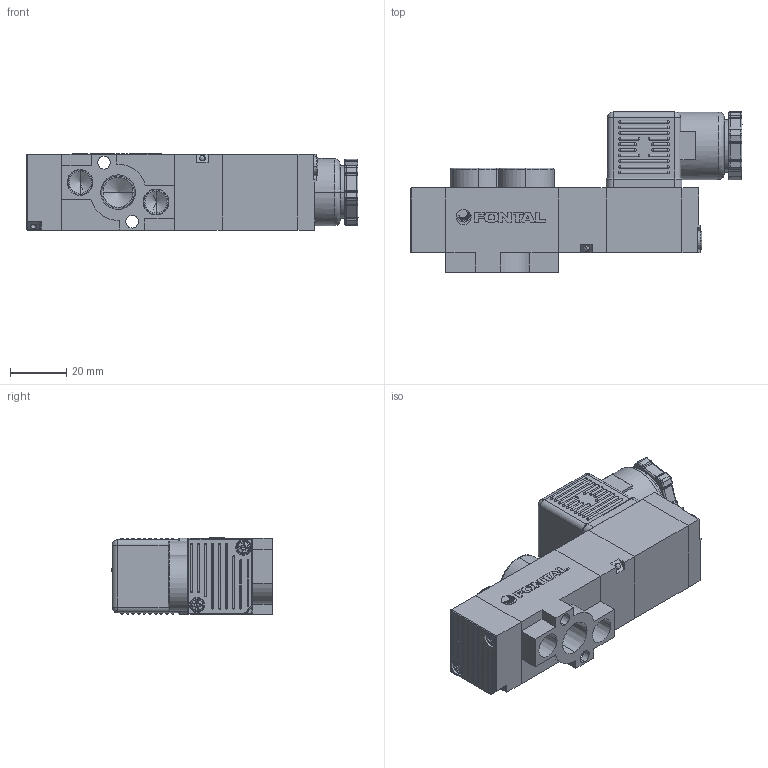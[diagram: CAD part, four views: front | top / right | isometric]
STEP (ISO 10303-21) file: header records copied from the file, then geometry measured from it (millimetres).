
FILE_DESCRIPTION (( 'STEP AP203' ), '1' );
FILE_NAME ('RCS2406-02-#C##.STEP', '2016-02-04T06:13:16', ( 'Sam Lin' ), ( '' ), 'SwSTEP 2.0', 'SolidWorks 2013', '' );
FILE_SCHEMA (( 'CONFIG_CONTROL_DESIGN' ));
Length unit declared in the file: metre
Products named in the file (12): RC06-3; PCS2406-3-小圓珠; PC6-M4; PCS2406-9; RC06-4; PC06-MARK; RC06-5; RC06-1; PCS2406-3-C; RC06-2; RCS2406-02-#C##; PC6-M3
Assembly tree (14 placements, depth 2):
  RCS2406-02-#C##
    PC06-MARK
    RC06-1
    RC06-2
    PC6-M3  x4
    RC06-3
    PCS2406-3-小圓珠
    PC6-M4
    PCS2406-9
    RC06-4
    RC06-5
    PCS2406-3-C
Bounding box: 118.1 x 57.14 x 27.15 mm (x, y, z)
Volume: 88078.9 mm3; surface area: 30452.5 mm2
Topology: 20 solids, 20 shells, 805 faces, 2078 edges, 1202 vertices
Faces by surface type: plane 293, cylinder 229, bspline 216, cone 67
Entity records: 28778 total; most frequent: CARTESIAN_POINT 12272, ORIENTED_EDGE 3308, DIRECTION 2904, EDGE_CURVE 1654, AXIS2_PLACEMENT_3D 1054, VERTEX_POINT 1049, VECTOR 796, LINE 796
